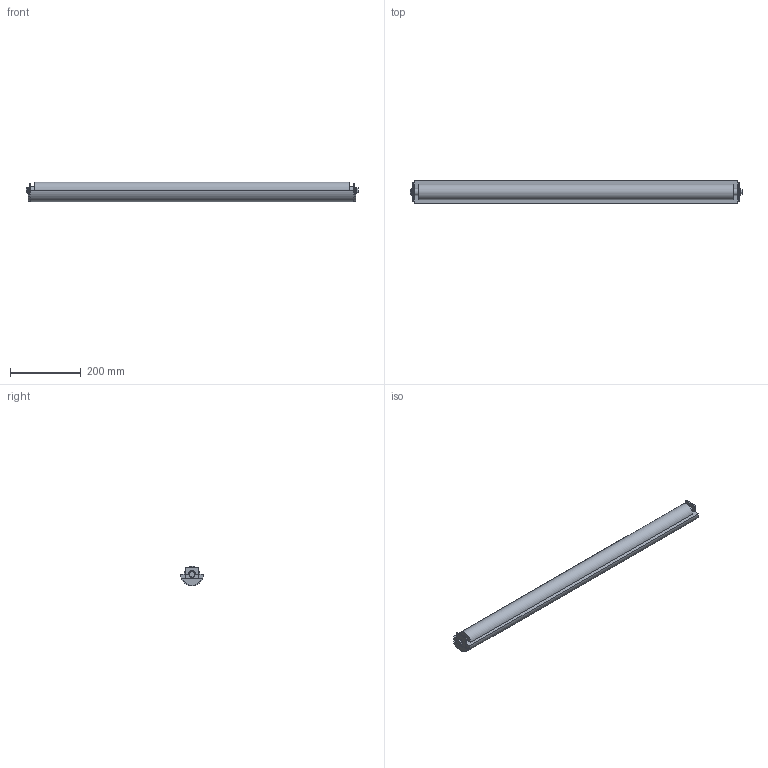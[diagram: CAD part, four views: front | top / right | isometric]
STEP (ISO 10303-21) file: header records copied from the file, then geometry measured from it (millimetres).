
FILE_DESCRIPTION (( 'STEP AP214' ), '1' );
FILE_NAME ('03.102I01.930.N FS-930-MTS2-100.INOX Idler section.STEP', '2025-02-11T11:31:37', ( '' ), ( '' ), 'SwSTEP 2.0', 'SolidWorks 2024', '' );
FILE_SCHEMA (( 'AUTOMOTIVE_DESIGN' ));
Length unit declared in the file: millimetre
Products named in the file (1): 03.102I01.930.N FS-930-MTS2-100.INOX Idler section
Bounding box: 938.8 x 65.4 x 55.2 mm (x, y, z)
Volume: 2263021.7 mm3; surface area: 189211.9 mm2
Topology: 1 solids, 1 shells, 64 faces, 164 edges, 108 vertices
Faces by surface type: plane 40, cylinder 24
Entity records: 1967 total; most frequent: DIRECTION 342, CARTESIAN_POINT 337, ORIENTED_EDGE 328, EDGE_CURVE 164, LINE 116, VECTOR 116, AXIS2_PLACEMENT_3D 113, VERTEX_POINT 108
